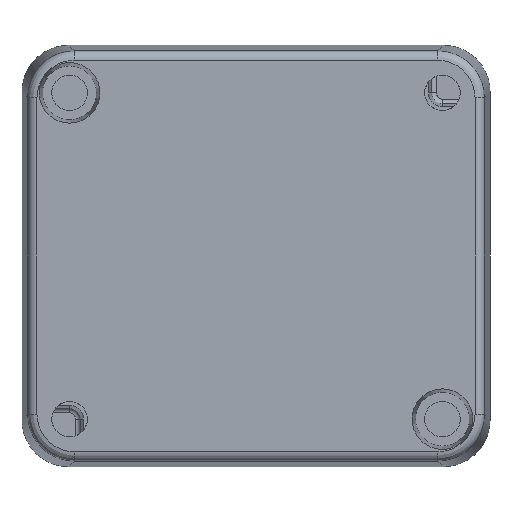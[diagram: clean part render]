
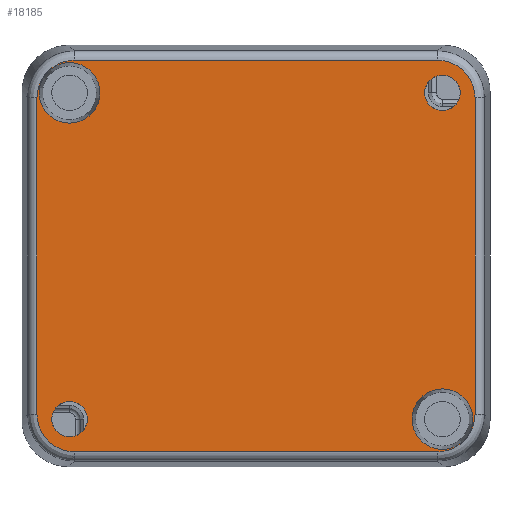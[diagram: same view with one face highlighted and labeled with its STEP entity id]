
A CAD part, front view. The second image highlights one B-rep face of the part: STEP entity #18185.
In plain terms, the highlighted planar face has unit normal (0, -1, 0).
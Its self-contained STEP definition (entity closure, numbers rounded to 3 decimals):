
#738=ELLIPSE('',#19438,4.003,4.);
#739=ELLIPSE('',#19439,4.003,4.);
#740=ELLIPSE('',#19440,4.003,4.);
#741=ELLIPSE('',#19441,4.003,4.);
#907=FACE_BOUND('',#2927,.T.);
#908=FACE_BOUND('',#2928,.T.);
#909=FACE_BOUND('',#2929,.T.);
#910=FACE_BOUND('',#2930,.T.);
#1762=FACE_OUTER_BOUND('',#2926,.T.);
#2926=EDGE_LOOP('',(#12647,#12648,#12649,#12650,#12651,#12652,#12653,#12654));
#2927=EDGE_LOOP('',(#12655));
#2928=EDGE_LOOP('',(#12656));
#2929=EDGE_LOOP('',(#12657));
#2930=EDGE_LOOP('',(#12658));
#4297=LINE('',#27593,#5677);
#4298=LINE('',#27597,#5678);
#4299=LINE('',#27601,#5679);
#4300=LINE('',#27605,#5680);
#5677=VECTOR('',#21317,38.987);
#5678=VECTOR('',#21320,33.987);
#5679=VECTOR('',#21323,38.987);
#5680=VECTOR('',#21326,33.987);
#6951=CIRCLE('',#19442,1.909);
#6952=CIRCLE('',#19443,1.909);
#6953=CIRCLE('',#19444,3.25);
#6954=CIRCLE('',#19445,3.25);
#7937=VERTEX_POINT('',#27591);
#7938=VERTEX_POINT('',#27592);
#7939=VERTEX_POINT('',#27594);
#7940=VERTEX_POINT('',#27596);
#7941=VERTEX_POINT('',#27598);
#7942=VERTEX_POINT('',#27600);
#7943=VERTEX_POINT('',#27602);
#7944=VERTEX_POINT('',#27604);
#7945=VERTEX_POINT('',#27607);
#7946=VERTEX_POINT('',#27609);
#7947=VERTEX_POINT('',#27611);
#7948=VERTEX_POINT('',#27613);
#9773=EDGE_CURVE('',#7937,#7938,#4297,.F.);
#9774=EDGE_CURVE('',#7938,#7939,#738,.F.);
#9775=EDGE_CURVE('',#7939,#7940,#4298,.F.);
#9776=EDGE_CURVE('',#7940,#7941,#739,.F.);
#9777=EDGE_CURVE('',#7941,#7942,#4299,.F.);
#9778=EDGE_CURVE('',#7942,#7943,#740,.F.);
#9779=EDGE_CURVE('',#7943,#7944,#4300,.F.);
#9780=EDGE_CURVE('',#7944,#7937,#741,.F.);
#9781=EDGE_CURVE('',#7945,#7945,#6951,.T.);
#9782=EDGE_CURVE('',#7946,#7946,#6952,.T.);
#9783=EDGE_CURVE('',#7947,#7947,#6953,.T.);
#9784=EDGE_CURVE('',#7948,#7948,#6954,.T.);
#12647=ORIENTED_EDGE('',*,*,#9773,.T.);
#12648=ORIENTED_EDGE('',*,*,#9774,.T.);
#12649=ORIENTED_EDGE('',*,*,#9775,.T.);
#12650=ORIENTED_EDGE('',*,*,#9776,.T.);
#12651=ORIENTED_EDGE('',*,*,#9777,.T.);
#12652=ORIENTED_EDGE('',*,*,#9778,.T.);
#12653=ORIENTED_EDGE('',*,*,#9779,.T.);
#12654=ORIENTED_EDGE('',*,*,#9780,.T.);
#12655=ORIENTED_EDGE('',*,*,#9781,.T.);
#12656=ORIENTED_EDGE('',*,*,#9782,.T.);
#12657=ORIENTED_EDGE('',*,*,#9783,.F.);
#12658=ORIENTED_EDGE('',*,*,#9784,.F.);
#17816=PLANE('',#19437);
#18185=ADVANCED_FACE('',(#1762,#907,#908,#909,#910),#17816,.F.);
#19437=AXIS2_PLACEMENT_3D('',#27590,#21315,#21316);
#19438=AXIS2_PLACEMENT_3D('',#27595,#21318,#21319);
#19439=AXIS2_PLACEMENT_3D('',#27599,#21321,#21322);
#19440=AXIS2_PLACEMENT_3D('',#27603,#21324,#21325);
#19441=AXIS2_PLACEMENT_3D('',#27606,#21327,#21328);
#19442=AXIS2_PLACEMENT_3D('',#27608,#21329,#21330);
#19443=AXIS2_PLACEMENT_3D('',#27610,#21331,#21332);
#19444=AXIS2_PLACEMENT_3D('',#27612,#21333,#21334);
#19445=AXIS2_PLACEMENT_3D('',#27614,#21335,#21336);
#21315=DIRECTION('center_axis',(0.,1.,0.));
#21316=DIRECTION('ref_axis',(0.,0.,1.));
#21317=DIRECTION('',(1.,0.,0.));
#21318=DIRECTION('center_axis',(0.,1.,0.));
#21319=DIRECTION('ref_axis',(-0.707,0.,0.707));
#21320=DIRECTION('',(0.,0.,1.));
#21321=DIRECTION('center_axis',(0.,1.,0.));
#21322=DIRECTION('ref_axis',(-0.707,0.,-0.707));
#21323=DIRECTION('',(-1.,0.,0.));
#21324=DIRECTION('center_axis',(0.,1.,0.));
#21325=DIRECTION('ref_axis',(0.707,0.,-0.707));
#21326=DIRECTION('',(0.,0.,-1.));
#21327=DIRECTION('center_axis',(0.,1.,0.));
#21328=DIRECTION('ref_axis',(0.707,0.,0.707));
#21329=DIRECTION('center_axis',(0.,1.,0.));
#21330=DIRECTION('ref_axis',(0.,0.,1.));
#21331=DIRECTION('center_axis',(0.,1.,0.));
#21332=DIRECTION('ref_axis',(0.,0.,1.));
#21333=DIRECTION('center_axis',(0.,-1.,0.));
#21334=DIRECTION('ref_axis',(0.,0.,-1.));
#21335=DIRECTION('center_axis',(0.,-1.,0.));
#21336=DIRECTION('ref_axis',(0.,0.,-1.));
#27590=CARTESIAN_POINT('Origin',(-25.1,-24.2,22.6));
#27591=CARTESIAN_POINT('',(19.494,-24.2,20.992));
#27592=CARTESIAN_POINT('',(-19.494,-24.2,20.992));
#27593=CARTESIAN_POINT('',(-19.494,-24.2,20.992));
#27594=CARTESIAN_POINT('',(-23.492,-24.2,16.994));
#27595=CARTESIAN_POINT('Origin',(-19.491,-24.2,16.991));
#27596=CARTESIAN_POINT('',(-23.492,-24.2,-16.994));
#27597=CARTESIAN_POINT('',(-23.492,-24.2,-16.994));
#27598=CARTESIAN_POINT('',(-19.494,-24.2,-20.992));
#27599=CARTESIAN_POINT('Origin',(-19.491,-24.2,-16.991));
#27600=CARTESIAN_POINT('',(19.494,-24.2,-20.992));
#27601=CARTESIAN_POINT('',(19.494,-24.2,-20.992));
#27602=CARTESIAN_POINT('',(23.492,-24.2,-16.994));
#27603=CARTESIAN_POINT('Origin',(19.491,-24.2,-16.991));
#27604=CARTESIAN_POINT('',(23.492,-24.2,16.994));
#27605=CARTESIAN_POINT('',(23.492,-24.2,16.994));
#27606=CARTESIAN_POINT('Origin',(19.491,-24.2,16.991));
#27607=CARTESIAN_POINT('',(20.,-24.2,19.409));
#27608=CARTESIAN_POINT('Origin',(20.,-24.2,17.5));
#27609=CARTESIAN_POINT('',(-20.,-24.2,-15.591));
#27610=CARTESIAN_POINT('Origin',(-20.,-24.2,-17.5));
#27611=CARTESIAN_POINT('',(20.,-24.2,-20.75));
#27612=CARTESIAN_POINT('Origin',(20.,-24.2,-17.5));
#27613=CARTESIAN_POINT('',(-20.,-24.2,14.25));
#27614=CARTESIAN_POINT('Origin',(-20.,-24.2,17.5));
